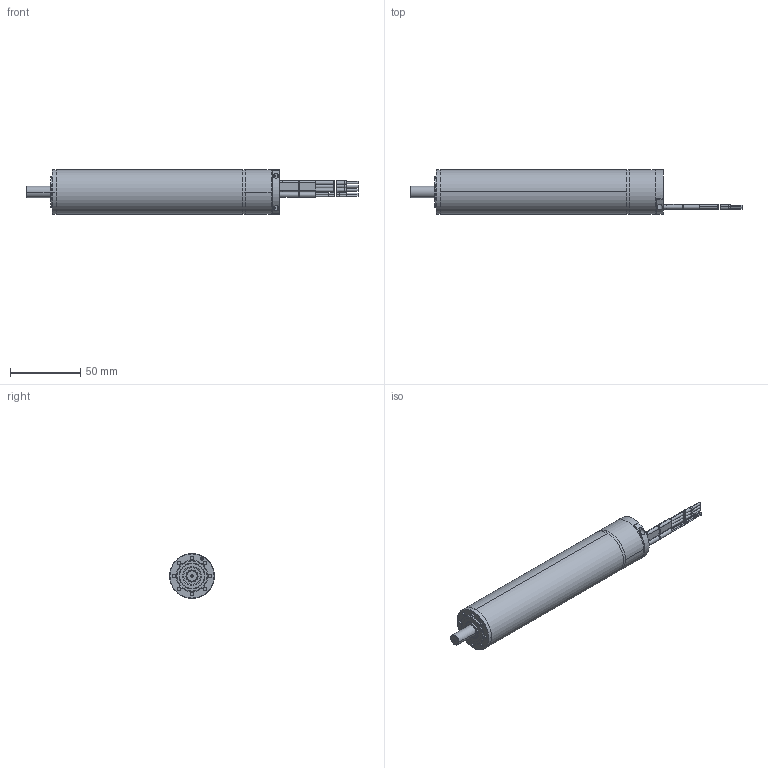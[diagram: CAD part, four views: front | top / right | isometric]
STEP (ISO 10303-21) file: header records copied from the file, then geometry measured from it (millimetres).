
FILE_DESCRIPTION((''),'2;1');
FILE_NAME('397799_EC-4POLE32_480W_A','2016-10-14T',('mmagpetk'),(''),'CREO PARAMETRIC BY PTC INC, 2016050','CREO PARAMETRIC BY PTC INC, 2016050','');
FILE_SCHEMA(('CONFIG_CONTROL_DESIGN'));
Length unit declared in the file: millimetre
Products named in the file (1): 397799_EC-4POLE32_480W_A
Bounding box: 236.8 x 32 x 32 mm (x, y, z)
Volume: 132179.9 mm3; surface area: 23404.1 mm2
Topology: 14 solids, 14 shells, 322 faces, 690 edges, 432 vertices
Faces by surface type: cylinder 144, plane 105, bspline 44, cone 21, torus 8
Entity records: 13117 total; most frequent: CARTESIAN_POINT 2734, DIRECTION 1541, ORIENTED_EDGE 1372, PRESENTATION_STYLE_ASSIGNMENT 849, STYLED_ITEM 700, CURVE_STYLE 686, EDGE_CURVE 686, AXIS2_PLACEMENT_3D 644
